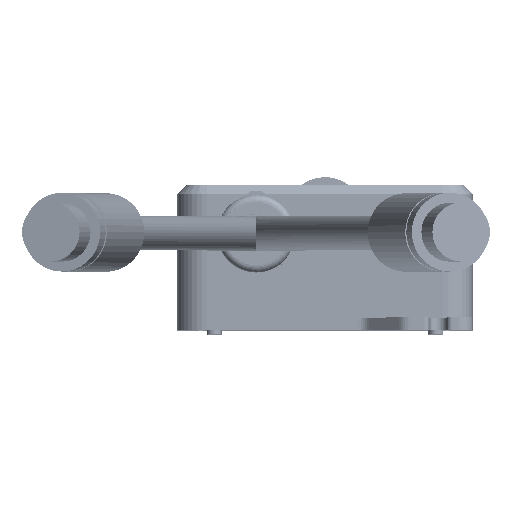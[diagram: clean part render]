
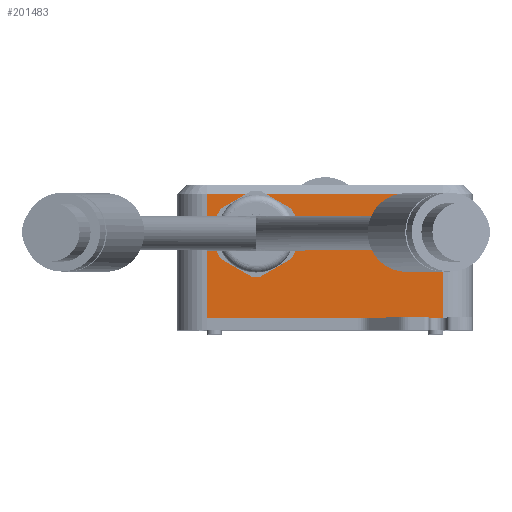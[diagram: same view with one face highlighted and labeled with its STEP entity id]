
A CAD part, top view. The second image highlights one B-rep face of the part: STEP entity #201483.
In plain terms, the highlighted planar face has unit normal (0, 0, 1).
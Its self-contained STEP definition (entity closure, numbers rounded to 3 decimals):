
#17897 = CIRCLE ( 'NONE', #359010, 6.5 ) ;
#18500 = EDGE_LOOP ( 'NONE', ( #256908, #121551, #462065, #85039 ) ) ;
#22267 = CARTESIAN_POINT ( 'NONE',  ( 0., 0., 44. ) ) ;
#57047 = EDGE_CURVE ( 'NONE', #259684, #355470, #17897, .T. ) ;
#85039 = ORIENTED_EDGE ( 'NONE', *, *, #403766, .T. ) ;
#87295 = CARTESIAN_POINT ( 'NONE',  ( -7.5, 3.5, 44. ) ) ;
#95963 = DIRECTION ( 'NONE',  ( 1., 0., 0. ) ) ;
#98545 = EDGE_CURVE ( 'NONE', #130798, #237132, #289807, .T. ) ;
#99419 = CARTESIAN_POINT ( 'NONE',  ( 30., -13.5, 44. ) ) ;
#104116 = FACE_BOUND ( 'NONE', #134814, .T. ) ;
#105869 = CARTESIAN_POINT ( 'NONE',  ( -24., 0., 44. ) ) ;
#106654 = CARTESIAN_POINT ( 'NONE',  ( 0., 11.5, 44. ) ) ;
#121551 = ORIENTED_EDGE ( 'NONE', *, *, #205536, .T. ) ;
#130798 = VERTEX_POINT ( 'NONE', #301236 ) ;
#134814 = EDGE_LOOP ( 'NONE', ( #286484, #235099 ) ) ;
#138929 = PLANE ( 'NONE',  #456993 ) ;
#141367 = FACE_OUTER_BOUND ( 'NONE', #18500, .T. ) ;
#143870 = EDGE_CURVE ( 'NONE', #355470, #259684, #461040, .T. ) ;
#152137 = CARTESIAN_POINT ( 'NONE',  ( -14., 3.5, 44. ) ) ;
#155602 = DIRECTION ( 'NONE',  ( 0., 1., 0. ) ) ;
#159262 = CARTESIAN_POINT ( 'NONE',  ( 24., 11.5, 44. ) ) ;
#201483 = ADVANCED_FACE ( 'NONE', ( #104116, #141367 ), #138929, .F. ) ;
#205536 = EDGE_CURVE ( 'NONE', #477538, #130798, #375000, .T. ) ;
#206407 = LINE ( 'NONE', #99419, #271415 ) ;
#211082 = DIRECTION ( 'NONE',  ( -1., 0., 0. ) ) ;
#215527 = CARTESIAN_POINT ( 'NONE',  ( -24., -13.5, 44. ) ) ;
#234046 = DIRECTION ( 'NONE',  ( 0., 0., 1. ) ) ;
#235099 = ORIENTED_EDGE ( 'NONE', *, *, #57047, .F. ) ;
#237132 = VERTEX_POINT ( 'NONE', #215527 ) ;
#252247 = VECTOR ( 'NONE', #155602, 1000. ) ;
#256908 = ORIENTED_EDGE ( 'NONE', *, *, #435609, .T. ) ;
#259684 = VERTEX_POINT ( 'NONE', #342450 ) ;
#271331 = DIRECTION ( 'NONE',  ( 1., 0., 0. ) ) ;
#271415 = VECTOR ( 'NONE', #434931, 1000. ) ;
#281594 = VERTEX_POINT ( 'NONE', #287942 ) ;
#286484 = ORIENTED_EDGE ( 'NONE', *, *, #143870, .F. ) ;
#287942 = CARTESIAN_POINT ( 'NONE',  ( 24., -13.5, 44. ) ) ;
#289807 = LINE ( 'NONE', #105869, #444868 ) ;
#300162 = VECTOR ( 'NONE', #476970, 1000. ) ;
#301236 = CARTESIAN_POINT ( 'NONE',  ( -24., 11.5, 44. ) ) ;
#342450 = CARTESIAN_POINT ( 'NONE',  ( -20.5, 3.5, 44. ) ) ;
#355470 = VERTEX_POINT ( 'NONE', #87295 ) ;
#359010 = AXIS2_PLACEMENT_3D ( 'NONE', #152137, #234046, #271331 ) ;
#369086 = CARTESIAN_POINT ( 'NONE',  ( -14., 3.5, 44. ) ) ;
#375000 = LINE ( 'NONE', #106654, #300162 ) ;
#384210 = LINE ( 'NONE', #389072, #252247 ) ;
#389072 = CARTESIAN_POINT ( 'NONE',  ( 24., 0., 44. ) ) ;
#403766 = EDGE_CURVE ( 'NONE', #237132, #281594, #206407, .T. ) ;
#429475 = AXIS2_PLACEMENT_3D ( 'NONE', #369086, #436335, #95963 ) ;
#434931 = DIRECTION ( 'NONE',  ( 1., 0., 0. ) ) ;
#435609 = EDGE_CURVE ( 'NONE', #281594, #477538, #384210, .T. ) ;
#436335 = DIRECTION ( 'NONE',  ( 0., 0., 1. ) ) ;
#438950 = DIRECTION ( 'NONE',  ( 0., -1., 0. ) ) ;
#444868 = VECTOR ( 'NONE', #438950, 1000. ) ;
#456993 = AXIS2_PLACEMENT_3D ( 'NONE', #22267, #476871, #211082 ) ;
#461040 = CIRCLE ( 'NONE', #429475, 6.5 ) ;
#462065 = ORIENTED_EDGE ( 'NONE', *, *, #98545, .T. ) ;
#476871 = DIRECTION ( 'NONE',  ( 0., 0., -1. ) ) ;
#476970 = DIRECTION ( 'NONE',  ( -1., 0., 0. ) ) ;
#477538 = VERTEX_POINT ( 'NONE', #159262 ) ;
